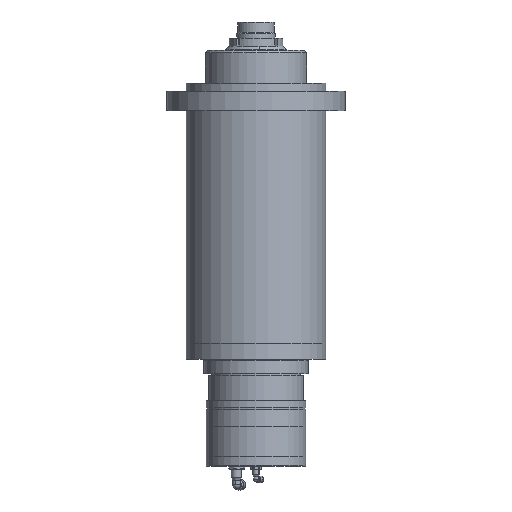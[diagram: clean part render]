
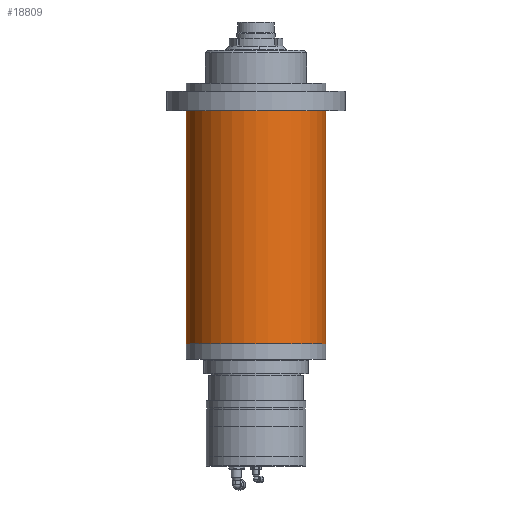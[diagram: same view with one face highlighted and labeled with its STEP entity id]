
A CAD part, front view. The second image highlights one B-rep face of the part: STEP entity #18809.
In plain terms, the highlighted cylindrical face has radius 90 mm (diameter 180 mm), a partial arc.
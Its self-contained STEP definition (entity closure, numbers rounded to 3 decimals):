
#1449 = VECTOR ( 'NONE', #6080, 1000. ) ;
#2517 = DIRECTION ( 'NONE',  ( 0., 0., -1. ) ) ;
#3466 = DIRECTION ( 'NONE',  ( 1., 0., 0. ) ) ;
#4514 = ORIENTED_EDGE ( 'NONE', *, *, #10088, .F. ) ;
#4789 = DIRECTION ( 'NONE',  ( -1., 0., 0. ) ) ;
#5587 = CARTESIAN_POINT ( 'NONE',  ( 90., 0., 300. ) ) ;
#6080 = DIRECTION ( 'NONE',  ( 0., 0., -1. ) ) ;
#6103 = FACE_OUTER_BOUND ( 'NONE', #11508, .T. ) ;
#6571 = DIRECTION ( 'NONE',  ( 0., 0., 1. ) ) ;
#7888 = DIRECTION ( 'NONE',  ( 0., 0., -1. ) ) ;
#8674 = LINE ( 'NONE', #5587, #14556 ) ;
#9163 = CARTESIAN_POINT ( 'NONE',  ( -90., 0., 300. ) ) ;
#9649 = CARTESIAN_POINT ( 'NONE',  ( 0., 0., 300. ) ) ;
#9984 = AXIS2_PLACEMENT_3D ( 'NONE', #10930, #7888, #4789 ) ;
#10088 = EDGE_CURVE ( 'NONE', #10556, #24608, #27725, .T. ) ;
#10556 = VERTEX_POINT ( 'NONE', #20196 ) ;
#10730 = CYLINDRICAL_SURFACE ( 'NONE', #9984, 90. ) ;
#10930 = CARTESIAN_POINT ( 'NONE',  ( 0., 0., 300. ) ) ;
#11508 = EDGE_LOOP ( 'NONE', ( #17545, #4514, #24211, #26499 ) ) ;
#13317 = CIRCLE ( 'NONE', #29441, 90. ) ;
#14556 = VECTOR ( 'NONE', #2517, 1000. ) ;
#15617 = CARTESIAN_POINT ( 'NONE',  ( 90., 0., 300. ) ) ;
#16132 = VERTEX_POINT ( 'NONE', #17376 ) ;
#17376 = CARTESIAN_POINT ( 'NONE',  ( -90., 0., 0. ) ) ;
#17545 = ORIENTED_EDGE ( 'NONE', *, *, #18052, .F. ) ;
#18052 = EDGE_CURVE ( 'NONE', #24608, #27421, #8674, .T. ) ;
#18809 = ADVANCED_FACE ( 'NONE', ( #6103 ), #10730, .T. ) ;
#20196 = CARTESIAN_POINT ( 'NONE',  ( -90., 0., 300. ) ) ;
#20212 = CARTESIAN_POINT ( 'NONE',  ( 90., 0., 0. ) ) ;
#23332 = DIRECTION ( 'NONE',  ( 1., 0., 0. ) ) ;
#24211 = ORIENTED_EDGE ( 'NONE', *, *, #26208, .T. ) ;
#24608 = VERTEX_POINT ( 'NONE', #15617 ) ;
#25634 = AXIS2_PLACEMENT_3D ( 'NONE', #9649, #6571, #3466 ) ;
#25692 = EDGE_CURVE ( 'NONE', #16132, #27421, #13317, .T. ) ;
#26208 = EDGE_CURVE ( 'NONE', #10556, #16132, #27502, .T. ) ;
#26395 = DIRECTION ( 'NONE',  ( 0., 0., 1. ) ) ;
#26499 = ORIENTED_EDGE ( 'NONE', *, *, #25692, .T. ) ;
#27421 = VERTEX_POINT ( 'NONE', #20212 ) ;
#27502 = LINE ( 'NONE', #9163, #1449 ) ;
#27725 = CIRCLE ( 'NONE', #25634, 90. ) ;
#29441 = AXIS2_PLACEMENT_3D ( 'NONE', #29462, #26395, #23332 ) ;
#29462 = CARTESIAN_POINT ( 'NONE',  ( 0., 0., 0. ) ) ;
